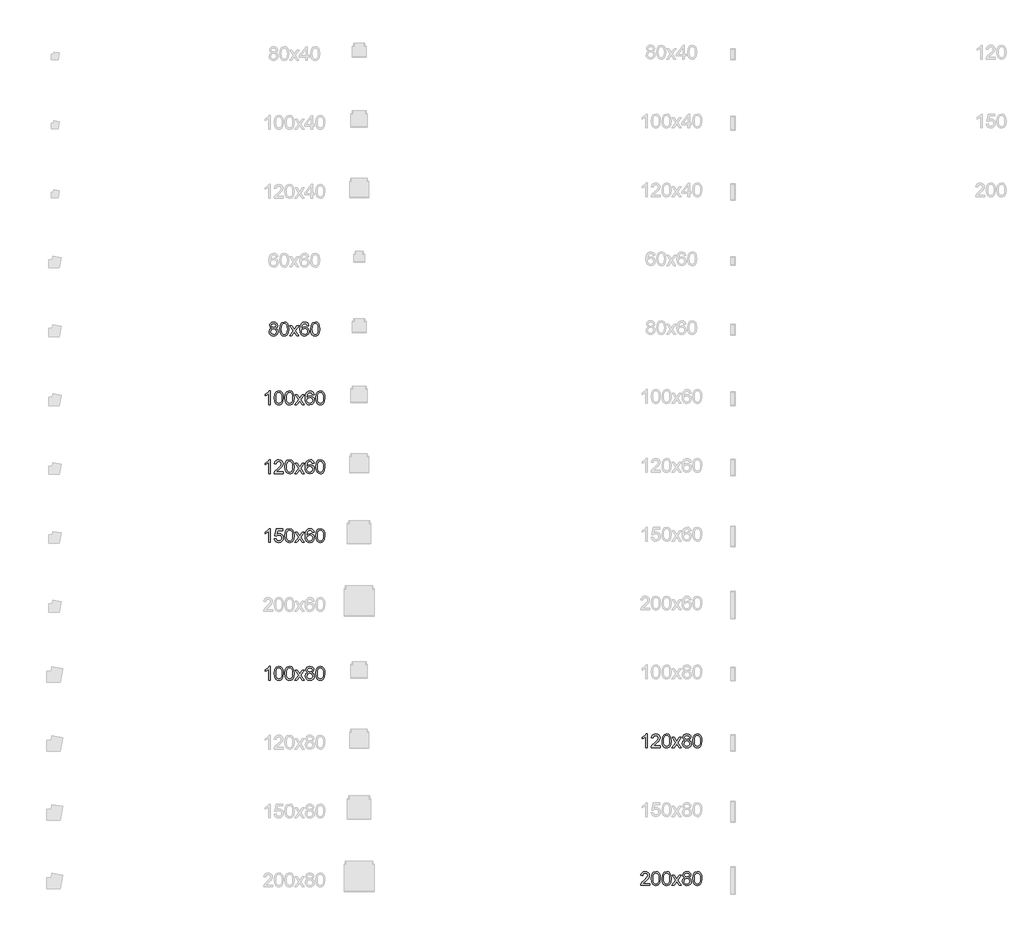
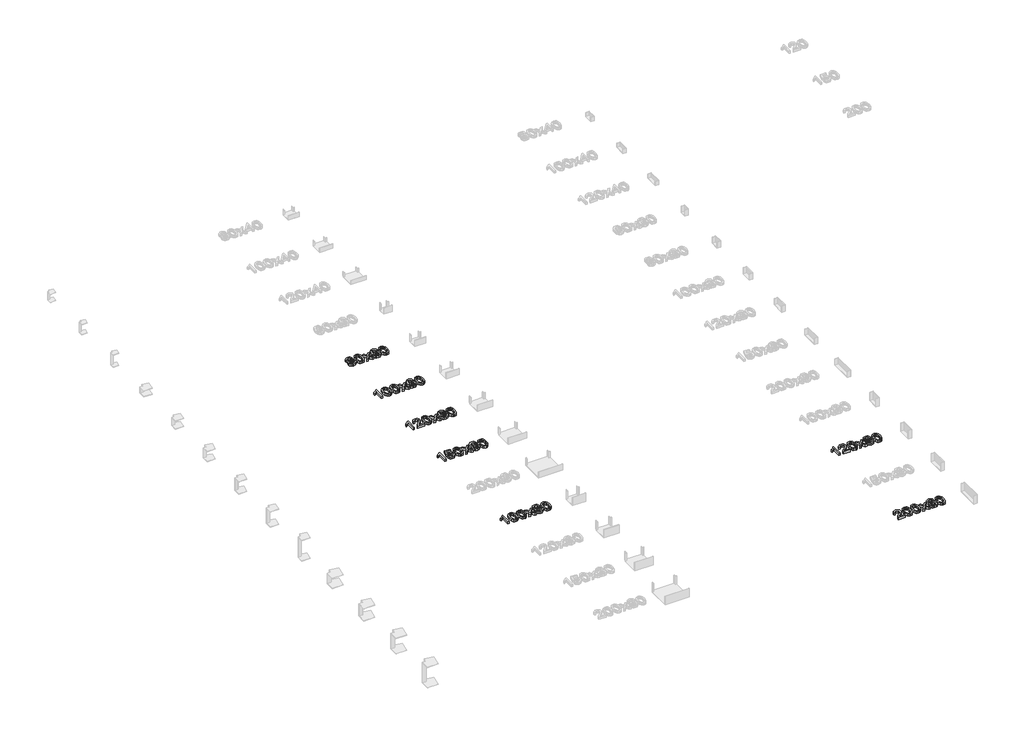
# One storey, part 17 of 28: 7 proxies.
"""IFC4 building model written with IfcOpenShell, lengths in millimetres."""

import ifcopenshell
import ifcopenshell.guid

model = None  # the IFC model being written
_history = None  # IfcOwnerHistory: only IFC2X3 demands one
_inside = {}  # id of a spatial element -> (the spatial element, [elements in it])
_under = {}  # id of a project, library or spatial element -> (it, [spatial elements below it])
_declared = {}  # id of a project -> (the project, [libraries it declares])
_typed = {}  # id of a type object -> (the type object, [elements of that type])
_made_of = {}  # id of a material, layer set ... -> (it, [elements and type objects made of it])


def new_model(schema):
    """Start an empty IFC model of exactly this schema.

    Asked for "IFC4X3", IfcOpenShell would pick the latest addendum, in which some entities
    have other attributes; the version numbers below select the first issue.
    IFC2X3 requires an IfcOwnerHistory on every rooted entity: one is made here for all.
    """
    global model, _history
    if schema == "IFC4X3":
        model = ifcopenshell.file(schema_version=(4, 3, 0, 0))
    else:
        model = ifcopenshell.file(schema=schema)
    _inside.clear()
    _under.clear()
    _declared.clear()
    _typed.clear()
    _made_of.clear()
    _history = None
    if model.schema == "IFC2X3":
        org = make("IfcOrganization", Name="unknown")
        user = make(
            "IfcPersonAndOrganization",
            ThePerson=make("IfcPerson", FamilyName="unknown"),
            TheOrganization=org,
        )
        app = make(
            "IfcApplication",
            ApplicationDeveloper=org,
            Version="unknown",
            ApplicationFullName="unknown",
            ApplicationIdentifier="unknown",
        )
        _history = make(
            "IfcOwnerHistory",
            OwningUser=user,
            OwningApplication=app,
            ChangeAction="ADDED",
            CreationDate=0,
        )
    return model


def make(cls, **values):
    """One entity of the class cls with the attributes given. An attribute that is None is left unset."""
    return model.create_entity(
        cls, **{name: value for name, value in values.items() if value is not None}
    )


def rooted(cls, **values):
    """An entity with a GlobalId (a new one), such as an element, a storey or a relation."""
    return make(cls, GlobalId=ifcopenshell.guid.new(), OwnerHistory=_history, **values)


def si_unit(unit_type, name, prefix=None):
    """IfcSIUnit, for example si_unit("LENGTHUNIT", "METRE", prefix="MILLI")."""
    return make("IfcSIUnit", UnitType=unit_type, Prefix=prefix, Name=name)


def assignment(units):
    """IfcUnitAssignment: the units of a project."""
    return None if units is None else make("IfcUnitAssignment", Units=units)


def point(xyz):
    """IfcCartesianPoint."""
    return None if xyz is None else make("IfcCartesianPoint", Coordinates=xyz)


def direction(xyz):
    """IfcDirection."""
    return None if xyz is None else make("IfcDirection", DirectionRatios=xyz)


def frame(location, z_axis=None, x_axis=None):
    """IfcAxis2Placement3D, a coordinate frame: its origin and axes. An axis left out is left unset."""
    return make(
        "IfcAxis2Placement3D",
        Location=point(location),
        Axis=direction(z_axis),
        RefDirection=direction(x_axis),
    )


def origin():
    """The frame at (0, 0, 0) with its axes left unset."""
    return frame((0.0, 0.0, 0.0))


def origin_with_axes():
    """The frame at (0, 0, 0) with the z axis (0, 0, 1) and the x axis (1, 0, 0) written out."""
    return frame((0.0, 0.0, 0.0), z_axis=(0.0, 0.0, 1.0), x_axis=(1.0, 0.0, 0.0))


def place(relative_to, where):
    """IfcLocalPlacement: puts the frame where relative to a parent placement (None: the world)."""
    return make(
        "IfcLocalPlacement", PlacementRelTo=relative_to, RelativePlacement=where
    )


def context(
    kind, dimensions, precision=None, world=None, true_north=None, identifier=None
):
    """IfcGeometricRepresentationContext, for example the 3D "Model" context."""
    return make(
        "IfcGeometricRepresentationContext",
        ContextIdentifier=identifier,
        ContextType=kind,
        CoordinateSpaceDimension=dimensions,
        Precision=precision,
        WorldCoordinateSystem=world,
        TrueNorth=true_north,
    )


def project(units=None, contexts=None):
    """IfcProject with its units and contexts."""
    return rooted(
        "IfcProject",
        Name="project",
        RepresentationContexts=contexts,
        UnitsInContext=assignment(units),
    )


def spatial(cls, under=None, at=None, **own):
    """A site, building, storey or space (cls), placed at a placement, below another one or the project."""
    s = rooted(cls, ObjectPlacement=at, **own)
    if under is not None:
        _under.setdefault(under.id(), (under, []))[1].append(s)
    return s


def polyline(points):
    """IfcPolyline through the points."""
    return make("IfcPolyline", Points=[point(p) for p in points])


def outline(outer, holes=None, kind="AREA"):
    """IfcArbitraryClosedProfileDef: a profile drawn as a closed curve; with holes, ...WithVoids."""
    if holes is None:
        return make("IfcArbitraryClosedProfileDef", ProfileType=kind, OuterCurve=outer)
    return make(
        "IfcArbitraryProfileDefWithVoids",
        ProfileType=kind,
        OuterCurve=outer,
        InnerCurves=holes,
    )


def extrude(swept, where, along, depth):
    """IfcExtrudedAreaSolid: the profile swept, set in the frame where, extruded along a direction by depth."""
    return make(
        "IfcExtrudedAreaSolid",
        SweptArea=swept,
        Position=where,
        ExtrudedDirection=direction(along),
        Depth=depth,
    )


def shape(context_of_items, identifier, shape_type, items):
    """IfcShapeRepresentation: the items that make up one representation, for example the "Body"."""
    return make(
        "IfcShapeRepresentation",
        ContextOfItems=context_of_items,
        RepresentationIdentifier=identifier,
        RepresentationType=shape_type,
        Items=items,
    )


def made_of(thing, what):
    """Note that an element or type object is made of a material, layer set ...; save() writes the relation."""
    if what is not None:
        _made_of.setdefault(what.id(), (what, []))[1].append(thing)
    return thing


def element(
    cls,
    number,
    at=None,
    inside=None,
    cuts=None,
    type_object=None,
    material=None,
    context=None,
    identifier="Body",
    shape_type=None,
    held_by="IfcProductDefinitionShape",
    body=None,
    shapes=None,
    **own,
):
    """One element of the class cls, such as IfcWall. Its Tag is "e" and its number.

    at: its placement. inside: the storey or other place that contains it. cuts: it is an
    opening in that element (IfcRelVoidsElement). A single representation is given by context,
    identifier, shape_type and body (its items); several are given by shapes. held_by: the class
    of the entity that holds the representations. save() writes the other relations.
    """
    e = rooted(cls, Tag="e%d" % number, ObjectPlacement=at, **own)
    if body is not None:
        shapes = [shape(context, identifier, shape_type, body)]
    if shapes is not None:
        e.Representation = make(held_by, Representations=shapes)
    if inside is not None:
        _inside.setdefault(inside.id(), (inside, []))[1].append(e)
    if cuts is not None:
        rooted(
            "IfcRelVoidsElement", RelatingBuildingElement=cuts, RelatedOpeningElement=e
        )
    if type_object is not None:
        _typed.setdefault(type_object.id(), (type_object, []))[1].append(e)
    return made_of(e, material)


def aggregate(whole, parts):
    """IfcRelAggregates: a whole, such as a stair, and the parts it consists of."""
    return rooted("IfcRelAggregates", RelatingObject=whole, RelatedObjects=parts)


def save(model, path):
    """Write the relations noted so far, then the file.

    IfcRelAggregates (storeys below a building ...), IfcRelContainedInSpatialStructure (elements
    in a storey), IfcRelDefinesByType, IfcRelAssociatesMaterial and IfcRelDeclares: one each for
    every whole, place, type object, material and project.
    """
    for whole, parts in _under.values():
        aggregate(whole, parts)
    for where, things in _inside.values():
        rooted(
            "IfcRelContainedInSpatialStructure",
            RelatedElements=things,
            RelatingStructure=where,
        )
    for kind, things in _typed.values():
        rooted("IfcRelDefinesByType", RelatedObjects=things, RelatingType=kind)
    for what, things in _made_of.values():
        rooted("IfcRelAssociatesMaterial", RelatedObjects=things, RelatingMaterial=what)
    for by, libraries in _declared.values():
        rooted("IfcRelDeclares", RelatingContext=by, RelatedDefinitions=libraries)
    model.write(path)


model = new_model("IFC4")

# Units and contexts
model_context = context("Model", 3, world=origin())
ifc_project = project(units=[si_unit("LENGTHUNIT", "METRE", prefix="MILLI")], contexts=[model_context])

# Site, building, storey
site = spatial("IfcSite", under=ifc_project)
building = spatial("IfcBuilding", under=site)
storey = spatial("IfcBuildingStorey", under=building, Name="Этаж 01", Elevation=0.0)

# Proxies
placement = place(None, origin())
element("IfcBuildingElementProxy", 1, Name="100 мм Arial", ObjectType="100 мм Arial", at=placement, inside=storey, context=model_context, shape_type="SweptSolid", body=[
    extrude(outline(polyline([(21237.1955345, -408.0058037), (21225.7544045, -400.2067054), (21222.0387963, -388.0665996), (21224.0621473, -378.2502817), (21230.1322002, -370.1384837), (21239.5683734, -364.6938302), (21251.6900851, -362.8789457), (21263.8853733, -364.7367497), (21273.4441738, -370.310162), (21279.6245913, -378.5507186), (21281.6847305, -388.4099561), (21278.0181733, -400.2434936), (21266.8958743, -408.0058037), (21280.2499907, -417.8527785), (21284.8239902, -434.1008999), (21282.5553845, -446.1061157), (21275.7495676, -456.0266668), (21265.2404053, -462.6853309), (21251.8617634, -464.9048856), (21238.4831215, -462.6761339), (21227.9739592, -455.9898786), (21221.1681423, -445.9742913), (21218.8995366, -433.7575434), (21223.6574771, -417.1292772), (21237.1955345, -408.0058037)]), holes=[polyline([(21234.5958351, -388.4344816), (21239.0472072, -398.2937191), (21252.0089162, -402.1196918), (21264.7131078, -398.3182445), (21269.1276917, -388.9985673), (21264.565955, -379.3477963), (21251.8617634, -375.4359844), (21239.1207836, -379.2619572), (21234.5958351, -388.4344816)]), polyline([(21231.4565754, -433.316085), (21233.5535028, -442.7706523), (21240.9724563, -449.8462493), (21251.9598653, -452.3478469), (21260.5069903, -451.0326687), (21266.9203997, -447.0871343), (21272.2669514, -433.7084925), (21266.7487215, -420.0723332), (21260.1881592, -416.0256312), (21251.5429323, -414.6767306), (21243.115369, -416.0072371), (21236.7663389, -419.9987568), (21231.4565754, -433.316085)])]), origin_with_axes(), (0.0, 0.0, 1.0), 20.0),
    extrude(outline(polyline([(21295.8113991, -413.9164411), (21299.5024818, -385.013179), (21310.4653652, -368.3481246), (21328.7736259, -362.8789457), (21343.4398547, -366.1163072), (21353.5688723, -375.4482472), (21359.4549843, -390.3106798), (21361.7358526, -413.9164411), (21358.0815581, -442.6970759), (21347.1554629, -459.3989185), (21338.9241032, -463.5283938), (21328.7736259, -464.9048856), (21315.7260778, -462.5136527), (21305.8177894, -455.3399538), (21298.3129967, -438.349937), (21295.8113991, -413.9164411)]), holes=[polyline([(21308.3684379, -413.8919156), (21309.8399658, -433.6441131), (21314.2545498, -445.0760461), (21320.8273748, -450.5298967), (21328.7736259, -452.3478469), (21336.719877, -450.5237653), (21343.2927019, -445.0515206), (21347.7072859, -433.6134563), (21349.1788139, -413.8919156), (21347.7563368, -394.5842423), (21343.4889057, -383.0634045), (21336.9283434, -377.3428394), (21328.6264731, -375.4359844), (21320.7660611, -377.1159789), (21314.4507535, -382.1559622), (21309.8890168, -394.3941699), (21308.3684379, -413.8919156)])]), origin_with_axes(), (0.0, 0.0, 1.0), 20.0),
    extrude(outline(polyline([(21368.014372, -463.3352558), (21394.8452322, -426.2527507), (21369.5840019, -389.562653), (21384.6916891, -389.562653), (21396.8808459, -407.2209888), (21402.5707541, -415.5596474), (21407.5003728, -408.7415677), (21421.3817868, -389.562653), (21436.489474, -389.562653), (21409.9529195, -426.2527507), (21435.5084554, -463.3352558), (21420.4007681, -463.3352558), (21405.0233007, -441.0416069), (21402.2028721, -436.9703795), (21383.1220593, -463.3352558), (21368.014372, -463.3352558)])), origin_with_axes(), (0.0, 0.0, 1.0), 20.0),
    extrude(outline(polyline([(21507.7114283, -389.562653), (21495.1543895, -391.1322829), (21490.3964491, -380.6599088), (21477.8148848, -375.4359844), (21466.4841194, -378.4771422), (21457.9124689, -389.8937468), (21454.3440135, -412.2732349), (21465.4172616, -402.2545819), (21479.13926, -398.9804321), (21490.7398056, -401.2183809), (21500.4764157, -407.9322273), (21507.0798976, -418.1900036), (21509.2810582, -431.0597421), (21505.1362543, -448.3869841), (21493.7319125, -460.6497172), (21477.2753246, -464.9048856), (21463.0290943, -462.084457), (21451.6830004, -453.6231711), (21444.2609812, -438.6871621), (21441.7869748, -416.4425641), (21444.533827, -391.4327198), (21452.7743837, -374.3323384), (21464.0254414, -365.7422938), (21478.5996998, -362.8789457), (21489.6177655, -364.6509106), (21498.440802, -369.9668054), (21504.6212196, -378.4096972), (21507.7114283, -389.562653)]), holes=[polyline([(21454.3440135, -430.8635384), (21457.2502813, -441.7405827), (21464.9758032, -449.6377828), (21476.2943059, -452.3478469), (21484.5808479, -450.9437639), (21491.0954249, -446.7315151), (21495.3168708, -440.1096392), (21496.7240194, -431.476675), (21495.3352649, -423.1901331), (21491.1690013, -416.8717598), (21484.5440597, -412.8710431), (21475.7792711, -411.5374709), (21460.5857447, -416.8717598), (21455.9044463, -423.0368489), (21454.3440135, -430.8635384)])]), origin_with_axes(), (0.0, 0.0, 1.0), 20.0),
    extrude(outline(polyline([(21520.2684671, -413.9164411), (21523.9595498, -385.013179), (21534.9224332, -368.3481246), (21553.2306938, -362.8789457), (21567.8969227, -366.1163072), (21578.0259403, -375.4482472), (21583.9120522, -390.3106798), (21586.1929206, -413.9164411), (21582.5386261, -442.6970759), (21571.6125309, -459.3989185), (21563.3811712, -463.5283938), (21553.2306938, -464.9048856), (21540.1831458, -462.5136527), (21530.2748573, -455.3399538), (21522.7700646, -438.349937), (21520.2684671, -413.9164411)]), holes=[polyline([(21532.8255058, -413.8919156), (21534.2970338, -433.6441131), (21538.7116178, -445.0760461), (21545.2844428, -450.5298967), (21553.2306938, -452.3478469), (21561.1769449, -450.5237653), (21567.7497699, -445.0515206), (21572.1643539, -433.6134563), (21573.6358818, -413.8919156), (21572.2134048, -394.5842423), (21567.9459737, -383.0634045), (21561.3854114, -377.3428394), (21553.0835411, -375.4359844), (21545.2231291, -377.1159789), (21538.9078215, -382.1559622), (21534.3460848, -394.3941699), (21532.8255058, -413.8919156)])]), origin_with_axes(), (0.0, 0.0, 1.0), 20.0),
])
element("IfcBuildingElementProxy", 2, Name="100 мм Arial", ObjectType="100 мм Arial", at=placement, inside=storey, context=model_context, shape_type="SweptSolid", body=[
    extrude(outline(polyline([(21227.5325008, -1463.3352558), (21214.975462, -1463.3352558), (21214.975462, -1385.0499672), (21203.0806108, -1393.5235158), (21189.8613845, -1399.8633489), (21189.8613845, -1387.9930232), (21208.267747, -1376.2453248), (21219.4390969, -1362.8789457), (21227.5325008, -1362.8789457), (21227.5325008, -1463.3352558)])), origin_with_axes(), (0.0, 0.0, 1.0), 20.0),
    extrude(outline(polyline([(21321.7102916, -1450.778217), (21321.7102916, -1463.3352558), (21255.785838, -1463.3352558), (21257.1347387, -1454.6777662), (21264.7621587, -1441.3481752), (21280.4829826, -1426.7923109), (21302.1634949, -1405.8720882), (21307.5836229, -1391.6473177), (21302.4700632, -1380.1326112), (21289.1159468, -1375.4359844), (21275.1977446, -1380.0222466), (21269.9125066, -1392.7019127), (21257.3554679, -1391.1322829), (21260.3996914, -1378.9860457), (21266.9817134, -1370.1139582), (21276.7581774, -1364.6876988), (21289.3857269, -1362.8789457), (21302.1052469, -1364.8900339), (21311.8633168, -1370.9232986), (21318.0713255, -1379.9364075), (21320.1406617, -1390.8870282), (21317.9088443, -1402.7941421), (21310.4898907, -1415.1059262), (21292.5004611, -1432.3105409), (21278.0549615, -1444.389333), (21272.3895787, -1450.778217), (21321.7102916, -1450.778217)])), origin_with_axes(), (0.0, 0.0, 1.0), 20.0),
    extrude(outline(polyline([(21334.2673303, -1413.9164411), (21337.958413, -1385.013179), (21348.9212965, -1368.3481246), (21367.2295571, -1362.8789457), (21381.895786, -1366.1163072), (21392.0248036, -1375.4482472), (21397.9109155, -1390.3106798), (21400.1917839, -1413.9164411), (21396.5374894, -1442.6970759), (21385.6113941, -1459.3989185), (21377.3800345, -1463.5283938), (21367.2295571, -1464.9048856), (21354.182009, -1462.5136527), (21344.2737206, -1455.3399538), (21336.7689279, -1438.349937), (21334.2673303, -1413.9164411)]), holes=[polyline([(21346.8243691, -1413.8919156), (21348.2958971, -1433.6441131), (21352.710481, -1445.0760461), (21359.283306, -1450.5298967), (21367.2295571, -1452.3478469), (21375.1758082, -1450.5237653), (21381.7486332, -1445.0515206), (21386.1632171, -1433.6134563), (21387.6347451, -1413.8919156), (21386.212268, -1394.5842423), (21381.9448369, -1383.0634045), (21375.3842746, -1377.3428394), (21367.0824043, -1375.4359844), (21359.2219923, -1377.1159789), (21352.9066847, -1382.1559622), (21348.344948, -1394.3941699), (21346.8243691, -1413.8919156)])]), origin_with_axes(), (0.0, 0.0, 1.0), 20.0),
    extrude(outline(polyline([(21406.4703032, -1463.3352558), (21433.3011634, -1426.2527507), (21408.0399331, -1389.562653), (21423.1476204, -1389.562653), (21435.3367771, -1407.2209888), (21441.0266853, -1415.5596474), (21445.9563041, -1408.7415677), (21459.837718, -1389.562653), (21474.9454053, -1389.562653), (21448.4088507, -1426.2527507), (21473.9643866, -1463.3352558), (21458.8566994, -1463.3352558), (21443.479232, -1441.0416069), (21440.6588033, -1436.9703795), (21421.5779905, -1463.3352558), (21406.4703032, -1463.3352558)])), origin_with_axes(), (0.0, 0.0, 1.0), 20.0),
    extrude(outline(polyline([(21546.1673595, -1389.562653), (21533.6103208, -1391.1322829), (21528.8523803, -1380.6599088), (21516.2708161, -1375.4359844), (21504.9400506, -1378.4771422), (21496.3684001, -1389.8937468), (21492.7999448, -1412.2732349), (21503.8731928, -1402.2545819), (21517.5951912, -1398.9804321), (21529.1957368, -1401.2183809), (21538.932347, -1407.9322273), (21545.5358288, -1418.1900036), (21547.7369894, -1431.0597421), (21543.5921856, -1448.3869841), (21532.1878437, -1460.6497172), (21515.7312558, -1464.9048856), (21501.4850255, -1462.084457), (21490.1389317, -1453.6231711), (21482.7169124, -1438.6871621), (21480.242906, -1416.4425641), (21482.9897582, -1391.4327198), (21491.2303149, -1374.3323384), (21502.4813726, -1365.7422938), (21517.055631, -1362.8789457), (21528.0736967, -1364.6509106), (21536.8967333, -1369.9668054), (21543.0771508, -1378.4096972), (21546.1673595, -1389.562653)]), holes=[polyline([(21492.7999448, -1430.8635384), (21495.7062125, -1441.7405827), (21503.4317344, -1449.6377828), (21514.7502372, -1452.3478469), (21523.0367791, -1450.9437639), (21529.5513561, -1446.7315151), (21533.772802, -1440.1096392), (21535.1799506, -1431.476675), (21533.7911961, -1423.1901331), (21529.6249325, -1416.8717598), (21522.9999909, -1412.8710431), (21514.2352024, -1411.5374709), (21499.041676, -1416.8717598), (21494.3603776, -1423.0368489), (21492.7999448, -1430.8635384)])]), origin_with_axes(), (0.0, 0.0, 1.0), 20.0),
    extrude(outline(polyline([(21558.7243983, -1413.9164411), (21562.415481, -1385.013179), (21573.3783645, -1368.3481246), (21591.6866251, -1362.8789457), (21606.352854, -1366.1163072), (21616.4818716, -1375.4482472), (21622.3679835, -1390.3106798), (21624.6488518, -1413.9164411), (21620.9945574, -1442.6970759), (21610.0684621, -1459.3989185), (21601.8371025, -1463.5283938), (21591.6866251, -1464.9048856), (21578.639077, -1462.5136527), (21568.7307886, -1455.3399538), (21561.2259959, -1438.349937), (21558.7243983, -1413.9164411)]), holes=[polyline([(21571.2814371, -1413.8919156), (21572.7529651, -1433.6441131), (21577.167549, -1445.0760461), (21583.740374, -1450.5298967), (21591.6866251, -1452.3478469), (21599.6328762, -1450.5237653), (21606.2057012, -1445.0515206), (21610.6202851, -1433.6134563), (21612.0918131, -1413.8919156), (21610.669336, -1394.5842423), (21606.4019049, -1383.0634045), (21599.8413426, -1377.3428394), (21591.5394723, -1375.4359844), (21583.6790603, -1377.1159789), (21577.3637527, -1382.1559622), (21572.802016, -1394.3941699), (21571.2814371, -1413.8919156)])]), origin_with_axes(), (0.0, 0.0, 1.0), 20.0),
])
element("IfcBuildingElementProxy", 3, Name="100 мм Arial", ObjectType="100 мм Arial", at=placement, inside=storey, context=model_context, shape_type="SweptSolid", body=[
    extrude(outline(polyline([(21227.5325008, -1963.3352558), (21214.975462, -1963.3352558), (21214.975462, -1885.0499672), (21203.0806108, -1893.5235158), (21189.8613845, -1899.8633489), (21189.8613845, -1887.9930232), (21208.267747, -1876.2453248), (21219.4390969, -1862.8789457), (21227.5325008, -1862.8789457), (21227.5325008, -1963.3352558)])), origin_with_axes(), (0.0, 0.0, 1.0), 20.0),
    extrude(outline(polyline([(21257.3554679, -1936.6515484), (21269.9125066, -1935.0819186), (21276.2400769, -1948.0191021), (21289.3612014, -1952.3478469), (21298.3620476, -1950.8425964), (21305.1065508, -1946.3268449), (21309.3187997, -1939.3217586), (21310.7228826, -1930.3485036), (21305.4621701, -1915.43702), (21298.8556226, -1911.3351358), (21289.5574052, -1909.967841), (21278.5332081, -1912.1506075), (21271.4821365, -1917.8159903), (21258.9250977, -1916.2463604), (21269.9125066, -1864.4485755), (21318.5710319, -1864.4485755), (21318.5710319, -1877.0056143), (21280.0660497, -1877.0056143), (21274.6949726, -1904.6703403), (21283.6651619, -1899.2256868), (21293.0645469, -1897.4108023), (21304.7969168, -1899.6610138), (21314.5365926, -1906.4116484), (21321.0940892, -1916.7000815), (21323.2799214, -1929.5636886), (21321.3117527, -1942.1207274), (21315.4072467, -1952.8628817), (21304.1010067, -1961.8943847), (21289.3121505, -1964.9048856), (21276.9789066, -1962.9704395), (21267.1533917, -1957.167101), (21260.4180855, -1948.1693206), (21257.3554679, -1936.6515484)])), origin_with_axes(), (0.0, 0.0, 1.0), 20.0),
    extrude(outline(polyline([(21334.2673303, -1913.9164411), (21337.958413, -1885.013179), (21348.9212965, -1868.3481246), (21367.2295571, -1862.8789457), (21381.895786, -1866.1163072), (21392.0248036, -1875.4482472), (21397.9109155, -1890.3106798), (21400.1917839, -1913.9164411), (21396.5374894, -1942.6970759), (21385.6113941, -1959.3989185), (21377.3800345, -1963.5283938), (21367.2295571, -1964.9048856), (21354.182009, -1962.5136527), (21344.2737206, -1955.3399538), (21336.7689279, -1938.349937), (21334.2673303, -1913.9164411)]), holes=[polyline([(21346.8243691, -1913.8919156), (21348.2958971, -1933.6441131), (21352.710481, -1945.0760461), (21359.283306, -1950.5298967), (21367.2295571, -1952.3478469), (21375.1758082, -1950.5237653), (21381.7486332, -1945.0515206), (21386.1632171, -1933.6134563), (21387.6347451, -1913.8919156), (21386.212268, -1894.5842423), (21381.9448369, -1883.0634045), (21375.3842746, -1877.3428394), (21367.0824043, -1875.4359844), (21359.2219923, -1877.1159789), (21352.9066847, -1882.1559622), (21348.344948, -1894.3941699), (21346.8243691, -1913.8919156)])]), origin_with_axes(), (0.0, 0.0, 1.0), 20.0),
    extrude(outline(polyline([(21406.4703032, -1963.3352558), (21433.3011634, -1926.2527507), (21408.0399331, -1889.562653), (21423.1476204, -1889.562653), (21435.3367771, -1907.2209888), (21441.0266853, -1915.5596474), (21445.9563041, -1908.7415677), (21459.837718, -1889.562653), (21474.9454053, -1889.562653), (21448.4088507, -1926.2527507), (21473.9643866, -1963.3352558), (21458.8566994, -1963.3352558), (21443.479232, -1941.0416069), (21440.6588033, -1936.9703795), (21421.5779905, -1963.3352558), (21406.4703032, -1963.3352558)])), origin_with_axes(), (0.0, 0.0, 1.0), 20.0),
    extrude(outline(polyline([(21546.1673595, -1889.562653), (21533.6103208, -1891.1322829), (21528.8523803, -1880.6599088), (21516.2708161, -1875.4359844), (21504.9400506, -1878.4771422), (21496.3684001, -1889.8937468), (21492.7999448, -1912.2732349), (21503.8731928, -1902.2545819), (21517.5951912, -1898.9804321), (21529.1957368, -1901.2183809), (21538.932347, -1907.9322273), (21545.5358288, -1918.1900036), (21547.7369894, -1931.0597421), (21543.5921856, -1948.3869841), (21532.1878437, -1960.6497172), (21515.7312558, -1964.9048856), (21501.4850255, -1962.084457), (21490.1389317, -1953.6231711), (21482.7169124, -1938.6871621), (21480.242906, -1916.4425641), (21482.9897582, -1891.4327198), (21491.2303149, -1874.3323384), (21502.4813726, -1865.7422938), (21517.055631, -1862.8789457), (21528.0736967, -1864.6509106), (21536.8967333, -1869.9668054), (21543.0771508, -1878.4096972), (21546.1673595, -1889.562653)]), holes=[polyline([(21492.7999448, -1930.8635384), (21495.7062125, -1941.7405827), (21503.4317344, -1949.6377828), (21514.7502372, -1952.3478469), (21523.0367791, -1950.9437639), (21529.5513561, -1946.7315151), (21533.772802, -1940.1096392), (21535.1799506, -1931.476675), (21533.7911961, -1923.1901331), (21529.6249325, -1916.8717598), (21522.9999909, -1912.8710431), (21514.2352024, -1911.5374709), (21499.041676, -1916.8717598), (21494.3603776, -1923.0368489), (21492.7999448, -1930.8635384)])]), origin_with_axes(), (0.0, 0.0, 1.0), 20.0),
    extrude(outline(polyline([(21558.7243983, -1913.9164411), (21562.415481, -1885.013179), (21573.3783645, -1868.3481246), (21591.6866251, -1862.8789457), (21606.352854, -1866.1163072), (21616.4818716, -1875.4482472), (21622.3679835, -1890.3106798), (21624.6488518, -1913.9164411), (21620.9945574, -1942.6970759), (21610.0684621, -1959.3989185), (21601.8371025, -1963.5283938), (21591.6866251, -1964.9048856), (21578.639077, -1962.5136527), (21568.7307886, -1955.3399538), (21561.2259959, -1938.349937), (21558.7243983, -1913.9164411)]), holes=[polyline([(21571.2814371, -1913.8919156), (21572.7529651, -1933.6441131), (21577.167549, -1945.0760461), (21583.740374, -1950.5298967), (21591.6866251, -1952.3478469), (21599.6328762, -1950.5237653), (21606.2057012, -1945.0515206), (21610.6202851, -1933.6134563), (21612.0918131, -1913.8919156), (21610.669336, -1894.5842423), (21606.4019049, -1883.0634045), (21599.8413426, -1877.3428394), (21591.5394723, -1875.4359844), (21583.6790603, -1877.1159789), (21577.3637527, -1882.1559622), (21572.802016, -1894.3941699), (21571.2814371, -1913.8919156)])]), origin_with_axes(), (0.0, 0.0, 1.0), 20.0),
])
element("IfcBuildingElementProxy", 4, Name="100 мм Arial", ObjectType="100 мм Arial", at=placement, inside=storey, context=model_context, shape_type="SweptSolid", body=[
    extrude(outline(polyline([(21227.5325008, -2963.3352558), (21214.975462, -2963.3352558), (21214.975462, -2885.0499672), (21203.0806108, -2893.5235158), (21189.8613845, -2899.8633489), (21189.8613845, -2887.9930232), (21208.267747, -2876.2453248), (21219.4390969, -2862.8789457), (21227.5325008, -2862.8789457), (21227.5325008, -2963.3352558)])), origin_with_axes(), (0.0, 0.0, 1.0), 20.0),
    extrude(outline(polyline([(21257.3554679, -2913.9164411), (21261.0465505, -2885.013179), (21272.009434, -2868.3481246), (21290.3176946, -2862.8789457), (21304.9839235, -2866.1163072), (21315.1129411, -2875.4482472), (21320.999053, -2890.3106798), (21323.2799214, -2913.9164411), (21319.6256269, -2942.6970759), (21308.6995317, -2959.3989185), (21300.468172, -2963.5283938), (21290.3176946, -2964.9048856), (21277.2701465, -2962.5136527), (21267.3618581, -2955.3399538), (21259.8570654, -2938.349937), (21257.3554679, -2913.9164411)]), holes=[polyline([(21269.9125066, -2913.8919156), (21271.3840346, -2933.6441131), (21275.7986186, -2945.0760461), (21282.3714435, -2950.5298967), (21290.3176946, -2952.3478469), (21298.2639457, -2950.5237653), (21304.8367707, -2945.0515206), (21309.2513546, -2933.6134563), (21310.7228826, -2913.8919156), (21309.3004056, -2894.5842423), (21305.0329744, -2883.0634045), (21298.4724122, -2877.3428394), (21290.1705418, -2875.4359844), (21282.3101299, -2877.1159789), (21275.9948223, -2882.1559622), (21271.4330855, -2894.3941699), (21269.9125066, -2913.8919156)])]), origin_with_axes(), (0.0, 0.0, 1.0), 20.0),
    extrude(outline(polyline([(21334.2673303, -2913.9164411), (21337.958413, -2885.013179), (21348.9212965, -2868.3481246), (21367.2295571, -2862.8789457), (21381.895786, -2866.1163072), (21392.0248036, -2875.4482472), (21397.9109155, -2890.3106798), (21400.1917839, -2913.9164411), (21396.5374894, -2942.6970759), (21385.6113941, -2959.3989185), (21377.3800345, -2963.5283938), (21367.2295571, -2964.9048856), (21354.182009, -2962.5136527), (21344.2737206, -2955.3399538), (21336.7689279, -2938.349937), (21334.2673303, -2913.9164411)]), holes=[polyline([(21346.8243691, -2913.8919156), (21348.2958971, -2933.6441131), (21352.710481, -2945.0760461), (21359.283306, -2950.5298967), (21367.2295571, -2952.3478469), (21375.1758082, -2950.5237653), (21381.7486332, -2945.0515206), (21386.1632171, -2933.6134563), (21387.6347451, -2913.8919156), (21386.212268, -2894.5842423), (21381.9448369, -2883.0634045), (21375.3842746, -2877.3428394), (21367.0824043, -2875.4359844), (21359.2219923, -2877.1159789), (21352.9066847, -2882.1559622), (21348.344948, -2894.3941699), (21346.8243691, -2913.8919156)])]), origin_with_axes(), (0.0, 0.0, 1.0), 20.0),
    extrude(outline(polyline([(21406.4703032, -2963.3352558), (21433.3011634, -2926.2527507), (21408.0399331, -2889.562653), (21423.1476204, -2889.562653), (21435.3367771, -2907.2209888), (21441.0266853, -2915.5596474), (21445.9563041, -2908.7415677), (21459.837718, -2889.562653), (21474.9454053, -2889.562653), (21448.4088507, -2926.2527507), (21473.9643866, -2963.3352558), (21458.8566994, -2963.3352558), (21443.479232, -2941.0416069), (21440.6588033, -2936.9703795), (21421.5779905, -2963.3352558), (21406.4703032, -2963.3352558)])), origin_with_axes(), (0.0, 0.0, 1.0), 20.0),
    extrude(outline(polyline([(21500.1085337, -2908.0058037), (21488.6674037, -2900.2067054), (21484.9517955, -2888.0665996), (21486.9751465, -2878.2502817), (21493.0451994, -2870.1384837), (21502.4813726, -2864.6938302), (21514.6030844, -2862.8789457), (21526.7983725, -2864.7367497), (21536.357173, -2870.310162), (21542.5375905, -2878.5507186), (21544.5977297, -2888.4099561), (21540.9311725, -2900.2434936), (21529.8088735, -2908.0058037), (21543.1629899, -2917.8527785), (21547.7369894, -2934.1008999), (21545.4683838, -2946.1061157), (21538.6625668, -2956.0266668), (21528.1534045, -2962.6853309), (21514.7747626, -2964.9048856), (21501.3961207, -2962.6761339), (21490.8869584, -2955.9898786), (21484.0811415, -2945.9742913), (21481.8125359, -2933.7575434), (21486.5704763, -2917.1292772), (21500.1085337, -2908.0058037)]), holes=[polyline([(21494.3695746, -2933.316085), (21496.466502, -2942.7706523), (21503.8854556, -2949.8462493), (21514.8728645, -2952.3478469), (21523.4199895, -2951.0326687), (21529.833399, -2947.0871343), (21535.1799506, -2933.7084925), (21529.6617207, -2920.0723332), (21523.1011584, -2916.0256312), (21514.4559316, -2914.6767306), (21506.0283682, -2916.0072371), (21499.6793381, -2919.9987568), (21494.3695746, -2933.316085)]), polyline([(21497.5088343, -2888.4344816), (21501.9602065, -2898.2937191), (21514.9219154, -2902.1196918), (21527.626107, -2898.3182445), (21532.0406909, -2888.9985673), (21527.4789542, -2879.3477963), (21514.7747626, -2875.4359844), (21502.0337829, -2879.2619572), (21497.5088343, -2888.4344816)])]), origin_with_axes(), (0.0, 0.0, 1.0), 20.0),
    extrude(outline(polyline([(21558.7243983, -2913.9164411), (21562.415481, -2885.013179), (21573.3783645, -2868.3481246), (21591.6866251, -2862.8789457), (21606.352854, -2866.1163072), (21616.4818716, -2875.4482472), (21622.3679835, -2890.3106798), (21624.6488518, -2913.9164411), (21620.9945574, -2942.6970759), (21610.0684621, -2959.3989185), (21601.8371025, -2963.5283938), (21591.6866251, -2964.9048856), (21578.639077, -2962.5136527), (21568.7307886, -2955.3399538), (21561.2259959, -2938.349937), (21558.7243983, -2913.9164411)]), holes=[polyline([(21571.2814371, -2913.8919156), (21572.7529651, -2933.6441131), (21577.167549, -2945.0760461), (21583.740374, -2950.5298967), (21591.6866251, -2952.3478469), (21599.6328762, -2950.5237653), (21606.2057012, -2945.0515206), (21610.6202851, -2933.6134563), (21612.0918131, -2913.8919156), (21610.669336, -2894.5842423), (21606.4019049, -2883.0634045), (21599.8413426, -2877.3428394), (21591.5394723, -2875.4359844), (21583.6790603, -2877.1159789), (21577.3637527, -2882.1559622), (21572.802016, -2894.3941699), (21571.2814371, -2913.8919156)])]), origin_with_axes(), (0.0, 0.0, 1.0), 20.0),
])
element("IfcBuildingElementProxy", 5, Name="100 мм Arial", ObjectType="100 мм Arial", at=placement, inside=storey, context=model_context, shape_type="SweptSolid", body=[
    extrude(outline(polyline([(21227.5325008, -963.3352558), (21214.975462, -963.3352558), (21214.975462, -885.0499672), (21203.0806108, -893.5235158), (21189.8613845, -899.8633489), (21189.8613845, -887.9930232), (21208.267747, -876.2453248), (21219.4390969, -862.8789457), (21227.5325008, -862.8789457), (21227.5325008, -963.3352558)])), origin_with_axes(), (0.0, 0.0, 1.0), 20.0),
    extrude(outline(polyline([(21257.3554679, -913.9164411), (21261.0465505, -885.013179), (21272.009434, -868.3481246), (21290.3176946, -862.8789457), (21304.9839235, -866.1163072), (21315.1129411, -875.4482472), (21320.999053, -890.3106798), (21323.2799214, -913.9164411), (21319.6256269, -942.6970759), (21308.6995317, -959.3989185), (21300.468172, -963.5283938), (21290.3176946, -964.9048856), (21277.2701465, -962.5136527), (21267.3618581, -955.3399538), (21259.8570654, -938.349937), (21257.3554679, -913.9164411)]), holes=[polyline([(21269.9125066, -913.8919156), (21271.3840346, -933.6441131), (21275.7986186, -945.0760461), (21282.3714435, -950.5298967), (21290.3176946, -952.3478469), (21298.2639457, -950.5237653), (21304.8367707, -945.0515206), (21309.2513546, -933.6134563), (21310.7228826, -913.8919156), (21309.3004056, -894.5842423), (21305.0329744, -883.0634045), (21298.4724122, -877.3428394), (21290.1705418, -875.4359844), (21282.3101299, -877.1159789), (21275.9948223, -882.1559622), (21271.4330855, -894.3941699), (21269.9125066, -913.8919156)])]), origin_with_axes(), (0.0, 0.0, 1.0), 20.0),
    extrude(outline(polyline([(21334.2673303, -913.9164411), (21337.958413, -885.013179), (21348.9212965, -868.3481246), (21367.2295571, -862.8789457), (21381.895786, -866.1163072), (21392.0248036, -875.4482472), (21397.9109155, -890.3106798), (21400.1917839, -913.9164411), (21396.5374894, -942.6970759), (21385.6113941, -959.3989185), (21377.3800345, -963.5283938), (21367.2295571, -964.9048856), (21354.182009, -962.5136527), (21344.2737206, -955.3399538), (21336.7689279, -938.349937), (21334.2673303, -913.9164411)]), holes=[polyline([(21346.8243691, -913.8919156), (21348.2958971, -933.6441131), (21352.710481, -945.0760461), (21359.283306, -950.5298967), (21367.2295571, -952.3478469), (21375.1758082, -950.5237653), (21381.7486332, -945.0515206), (21386.1632171, -933.6134563), (21387.6347451, -913.8919156), (21386.212268, -894.5842423), (21381.9448369, -883.0634045), (21375.3842746, -877.3428394), (21367.0824043, -875.4359844), (21359.2219923, -877.1159789), (21352.9066847, -882.1559622), (21348.344948, -894.3941699), (21346.8243691, -913.8919156)])]), origin_with_axes(), (0.0, 0.0, 1.0), 20.0),
    extrude(outline(polyline([(21406.4703032, -963.3352558), (21433.3011634, -926.2527507), (21408.0399331, -889.562653), (21423.1476204, -889.562653), (21435.3367771, -907.2209888), (21441.0266853, -915.5596474), (21445.9563041, -908.7415677), (21459.837718, -889.562653), (21474.9454053, -889.562653), (21448.4088507, -926.2527507), (21473.9643866, -963.3352558), (21458.8566994, -963.3352558), (21443.479232, -941.0416069), (21440.6588033, -936.9703795), (21421.5779905, -963.3352558), (21406.4703032, -963.3352558)])), origin_with_axes(), (0.0, 0.0, 1.0), 20.0),
    extrude(outline(polyline([(21546.1673595, -889.562653), (21533.6103208, -891.1322829), (21528.8523803, -880.6599088), (21516.2708161, -875.4359844), (21504.9400506, -878.4771422), (21496.3684001, -889.8937468), (21492.7999448, -912.2732349), (21503.8731928, -902.2545819), (21517.5951912, -898.9804321), (21529.1957368, -901.2183809), (21538.932347, -907.9322273), (21545.5358288, -918.1900036), (21547.7369894, -931.0597421), (21543.5921856, -948.3869841), (21532.1878437, -960.6497172), (21515.7312558, -964.9048856), (21501.4850255, -962.084457), (21490.1389317, -953.6231711), (21482.7169124, -938.6871621), (21480.242906, -916.4425641), (21482.9897582, -891.4327198), (21491.2303149, -874.3323384), (21502.4813726, -865.7422938), (21517.055631, -862.8789457), (21528.0736967, -864.6509106), (21536.8967333, -869.9668054), (21543.0771508, -878.4096972), (21546.1673595, -889.562653)]), holes=[polyline([(21492.7999448, -930.8635384), (21495.7062125, -941.7405827), (21503.4317344, -949.6377828), (21514.7502372, -952.3478469), (21523.0367791, -950.9437639), (21529.5513561, -946.7315151), (21533.772802, -940.1096392), (21535.1799506, -931.476675), (21533.7911961, -923.1901331), (21529.6249325, -916.8717598), (21522.9999909, -912.8710431), (21514.2352024, -911.5374709), (21499.041676, -916.8717598), (21494.3603776, -923.0368489), (21492.7999448, -930.8635384)])]), origin_with_axes(), (0.0, 0.0, 1.0), 20.0),
    extrude(outline(polyline([(21558.7243983, -913.9164411), (21562.415481, -885.013179), (21573.3783645, -868.3481246), (21591.6866251, -862.8789457), (21606.352854, -866.1163072), (21616.4818716, -875.4482472), (21622.3679835, -890.3106798), (21624.6488518, -913.9164411), (21620.9945574, -942.6970759), (21610.0684621, -959.3989185), (21601.8371025, -963.5283938), (21591.6866251, -964.9048856), (21578.639077, -962.5136527), (21568.7307886, -955.3399538), (21561.2259959, -938.349937), (21558.7243983, -913.9164411)]), holes=[polyline([(21571.2814371, -913.8919156), (21572.7529651, -933.6441131), (21577.167549, -945.0760461), (21583.740374, -950.5298967), (21591.6866251, -952.3478469), (21599.6328762, -950.5237653), (21606.2057012, -945.0515206), (21610.6202851, -933.6134563), (21612.0918131, -913.8919156), (21610.669336, -894.5842423), (21606.4019049, -883.0634045), (21599.8413426, -877.3428394), (21591.5394723, -875.4359844), (21583.6790603, -877.1159789), (21577.3637527, -882.1559622), (21572.802016, -894.3941699), (21571.2814371, -913.8919156)])]), origin_with_axes(), (0.0, 0.0, 1.0), 20.0),
])
element("IfcBuildingElementProxy", 6, Name="100 мм Arial", ObjectType="100 мм Arial", at=placement, inside=storey, context=model_context, shape_type="SweptSolid", body=[
    extrude(outline(polyline([(23965.0448333, -3453.3352558), (23952.4877945, -3453.3352558), (23952.4877945, -3375.0499672), (23940.5929433, -3383.5235158), (23927.373717, -3389.8633489), (23927.373717, -3377.9930232), (23945.7800795, -3366.2453248), (23956.9514294, -3352.8789457), (23965.0448333, -3352.8789457), (23965.0448333, -3453.3352558)])), origin_with_axes(), (0.0, 0.0, 1.0), 20.0),
    extrude(outline(polyline([(24059.222624, -3440.778217), (24059.222624, -3453.3352558), (23993.2981705, -3453.3352558), (23994.6470712, -3444.6777662), (24002.2744912, -3431.3481752), (24017.9953151, -3416.7923109), (24039.6758274, -3395.8720882), (24045.0959554, -3381.6473177), (24039.9823957, -3370.1326112), (24026.6282793, -3365.4359844), (24012.7100771, -3370.0222466), (24007.4248391, -3382.7019127), (23994.8678004, -3381.1322829), (23997.9120239, -3368.9860457), (24004.4940459, -3360.1139582), (24014.2705099, -3354.6876988), (24026.8980594, -3352.8789457), (24039.6175794, -3354.8900339), (24049.3756493, -3360.9232986), (24055.583658, -3369.9364075), (24057.6529942, -3380.8870282), (24055.4211768, -3392.7941421), (24048.0022232, -3405.1059262), (24030.0127936, -3422.3105409), (24015.5672939, -3434.389333), (24009.9019112, -3440.778217), (24059.222624, -3440.778217)])), origin_with_axes(), (0.0, 0.0, 1.0), 20.0),
    extrude(outline(polyline([(24071.7796628, -3403.9164411), (24075.4707455, -3375.013179), (24086.433629, -3358.3481246), (24104.7418896, -3352.8789457), (24119.4081185, -3356.1163072), (24129.5371361, -3365.4482472), (24135.423248, -3380.3106798), (24137.7041163, -3403.9164411), (24134.0498219, -3432.6970759), (24123.1237266, -3449.3989185), (24114.892367, -3453.5283938), (24104.7418896, -3454.9048856), (24091.6943415, -3452.5136527), (24081.7860531, -3445.3399538), (24074.2812604, -3428.349937), (24071.7796628, -3403.9164411)]), holes=[polyline([(24084.3367016, -3403.8919156), (24085.8082296, -3423.6441131), (24090.2228135, -3435.0760461), (24096.7956385, -3440.5298967), (24104.7418896, -3442.3478469), (24112.6881407, -3440.5237653), (24119.2609657, -3435.0515206), (24123.6755496, -3423.6134563), (24125.1470776, -3403.8919156), (24123.7246005, -3384.5842423), (24119.4571694, -3373.0634045), (24112.8966071, -3367.3428394), (24104.5947368, -3365.4359844), (24096.7343248, -3367.1159789), (24090.4190172, -3372.1559622), (24085.8572805, -3384.3941699), (24084.3367016, -3403.8919156)])]), origin_with_axes(), (0.0, 0.0, 1.0), 20.0),
    extrude(outline(polyline([(24143.9826357, -3453.3352558), (24170.8134959, -3416.2527507), (24145.5522656, -3379.562653), (24160.6599528, -3379.562653), (24172.8491096, -3397.2209888), (24178.5390178, -3405.5596474), (24183.4686365, -3398.7415677), (24197.3500505, -3379.562653), (24212.4577378, -3379.562653), (24185.9211832, -3416.2527507), (24211.4767191, -3453.3352558), (24196.3690318, -3453.3352558), (24180.9915644, -3431.0416069), (24178.1711358, -3426.9703795), (24159.090323, -3453.3352558), (24143.9826357, -3453.3352558)])), origin_with_axes(), (0.0, 0.0, 1.0), 20.0),
    extrude(outline(polyline([(24237.6208662, -3398.0058037), (24226.1797362, -3390.2067054), (24222.464128, -3378.0665996), (24224.487479, -3368.2502817), (24230.5575319, -3360.1384837), (24239.9937051, -3354.6938302), (24252.1154168, -3352.8789457), (24264.310705, -3354.7367497), (24273.8695055, -3360.310162), (24280.049923, -3368.5507186), (24282.1100622, -3378.4099561), (24278.443505, -3390.2434936), (24267.321206, -3398.0058037), (24280.6753224, -3407.8527785), (24285.2493219, -3424.1008999), (24282.9807162, -3436.1061157), (24276.1748993, -3446.0266668), (24265.665737, -3452.6853309), (24252.2870951, -3454.9048856), (24238.9084532, -3452.6761339), (24228.3992909, -3445.9898786), (24221.593474, -3435.9742913), (24219.3248683, -3423.7575434), (24224.0828088, -3407.1292772), (24237.6208662, -3398.0058037)]), holes=[polyline([(24235.0211668, -3378.4344816), (24239.4725389, -3388.2937191), (24252.4342479, -3392.1196918), (24265.1384395, -3388.3182445), (24269.5530234, -3378.9985673), (24264.9912867, -3369.3477963), (24252.2870951, -3365.4359844), (24239.5461153, -3369.2619572), (24235.0211668, -3378.4344816)]), polyline([(24231.8819071, -3423.316085), (24233.9788345, -3432.7706523), (24241.3977881, -3439.8462493), (24252.385197, -3442.3478469), (24260.932322, -3441.0326687), (24267.3457314, -3437.0871343), (24272.6922831, -3423.7084925), (24267.1740532, -3410.0723332), (24260.6134909, -3406.0256312), (24251.968264, -3404.6767306), (24243.5407007, -3406.0072371), (24237.1916706, -3409.9987568), (24231.8819071, -3423.316085)])]), origin_with_axes(), (0.0, 0.0, 1.0), 20.0),
    extrude(outline(polyline([(24296.2367308, -3403.9164411), (24299.9278135, -3375.013179), (24310.8906969, -3358.3481246), (24329.1989576, -3352.8789457), (24343.8651864, -3356.1163072), (24353.994204, -3365.4482472), (24359.880316, -3380.3106798), (24362.1611843, -3403.9164411), (24358.5068898, -3432.6970759), (24347.5807946, -3449.3989185), (24339.349435, -3453.5283938), (24329.1989576, -3454.9048856), (24316.1514095, -3452.5136527), (24306.2431211, -3445.3399538), (24298.7383284, -3428.349937), (24296.2367308, -3403.9164411)]), holes=[polyline([(24308.7937696, -3403.8919156), (24310.2652975, -3423.6441131), (24314.6798815, -3435.0760461), (24321.2527065, -3440.5298967), (24329.1989576, -3442.3478469), (24337.1452087, -3440.5237653), (24343.7180336, -3435.0515206), (24348.1326176, -3423.6134563), (24349.6041456, -3403.8919156), (24348.1816685, -3384.5842423), (24343.9142374, -3373.0634045), (24337.3536751, -3367.3428394), (24329.0518048, -3365.4359844), (24321.1913928, -3367.1159789), (24314.8760852, -3372.1559622), (24310.3143485, -3384.3941699), (24308.7937696, -3403.8919156)])]), origin_with_axes(), (0.0, 0.0, 1.0), 20.0),
])
element("IfcBuildingElementProxy", 7, Name="100 мм Arial", ObjectType="100 мм Arial", at=placement, inside=storey, context=model_context, shape_type="SweptSolid", body=[
    extrude(outline(polyline([(23982.3107616, -4440.778217), (23982.3107616, -4453.3352558), (23916.386308, -4453.3352558), (23917.7352087, -4444.6777662), (23925.3626287, -4431.3481752), (23941.0834527, -4416.7923109), (23962.7639649, -4395.8720882), (23968.184093, -4381.6473177), (23963.0705332, -4370.1326112), (23949.7164168, -4365.4359844), (23935.7982147, -4370.0222466), (23930.5129767, -4382.7019127), (23917.9559379, -4381.1322829), (23921.0001614, -4368.9860457), (23927.5821834, -4360.1139582), (23937.3586475, -4354.6876988), (23949.9861969, -4352.8789457), (23962.7057169, -4354.8900339), (23972.4637868, -4360.9232986), (23978.6717955, -4369.9364075), (23980.7411317, -4380.8870282), (23978.5093143, -4392.7941421), (23971.0903607, -4405.1059262), (23953.1009312, -4422.3105409), (23938.6554315, -4434.389333), (23932.9900488, -4440.778217), (23982.3107616, -4440.778217)])), origin_with_axes(), (0.0, 0.0, 1.0), 20.0),
    extrude(outline(polyline([(23994.8678004, -4403.9164411), (23998.558883, -4375.013179), (24009.5217665, -4358.3481246), (24027.8300271, -4352.8789457), (24042.496256, -4356.1163072), (24052.6252736, -4365.4482472), (24058.5113855, -4380.3106798), (24060.7922539, -4403.9164411), (24057.1379594, -4432.6970759), (24046.2118641, -4449.3989185), (24037.9805045, -4453.5283938), (24027.8300271, -4454.9048856), (24014.782479, -4452.5136527), (24004.8741906, -4445.3399538), (23997.3693979, -4428.349937), (23994.8678004, -4403.9164411)]), holes=[polyline([(24007.4248391, -4403.8919156), (24008.8963671, -4423.6441131), (24013.310951, -4435.0760461), (24019.883776, -4440.5298967), (24027.8300271, -4442.3478469), (24035.7762782, -4440.5237653), (24042.3491032, -4435.0515206), (24046.7636871, -4423.6134563), (24048.2352151, -4403.8919156), (24046.8127381, -4384.5842423), (24042.5453069, -4373.0634045), (24035.9847447, -4367.3428394), (24027.6828743, -4365.4359844), (24019.8224624, -4367.1159789), (24013.5071548, -4372.1559622), (24008.945418, -4384.3941699), (24007.4248391, -4403.8919156)])]), origin_with_axes(), (0.0, 0.0, 1.0), 20.0),
    extrude(outline(polyline([(24071.7796628, -4403.9164411), (24075.4707455, -4375.013179), (24086.433629, -4358.3481246), (24104.7418896, -4352.8789457), (24119.4081185, -4356.1163072), (24129.5371361, -4365.4482472), (24135.423248, -4380.3106798), (24137.7041163, -4403.9164411), (24134.0498219, -4432.6970759), (24123.1237266, -4449.3989185), (24114.892367, -4453.5283938), (24104.7418896, -4454.9048856), (24091.6943415, -4452.5136527), (24081.7860531, -4445.3399538), (24074.2812604, -4428.349937), (24071.7796628, -4403.9164411)]), holes=[polyline([(24084.3367016, -4403.8919156), (24085.8082296, -4423.6441131), (24090.2228135, -4435.0760461), (24096.7956385, -4440.5298967), (24104.7418896, -4442.3478469), (24112.6881407, -4440.5237653), (24119.2609657, -4435.0515206), (24123.6755496, -4423.6134563), (24125.1470776, -4403.8919156), (24123.7246005, -4384.5842423), (24119.4571694, -4373.0634045), (24112.8966071, -4367.3428394), (24104.5947368, -4365.4359844), (24096.7343248, -4367.1159789), (24090.4190172, -4372.1559622), (24085.8572805, -4384.3941699), (24084.3367016, -4403.8919156)])]), origin_with_axes(), (0.0, 0.0, 1.0), 20.0),
    extrude(outline(polyline([(24143.9826357, -4453.3352558), (24170.8134959, -4416.2527507), (24145.5522656, -4379.562653), (24160.6599528, -4379.562653), (24172.8491096, -4397.2209888), (24178.5390178, -4405.5596474), (24183.4686365, -4398.7415677), (24197.3500505, -4379.562653), (24212.4577378, -4379.562653), (24185.9211832, -4416.2527507), (24211.4767191, -4453.3352558), (24196.3690318, -4453.3352558), (24180.9915644, -4431.0416069), (24178.1711358, -4426.9703795), (24159.090323, -4453.3352558), (24143.9826357, -4453.3352558)])), origin_with_axes(), (0.0, 0.0, 1.0), 20.0),
    extrude(outline(polyline([(24237.6208662, -4398.0058037), (24226.1797362, -4390.2067054), (24222.464128, -4378.0665996), (24224.487479, -4368.2502817), (24230.5575319, -4360.1384837), (24239.9937051, -4354.6938302), (24252.1154168, -4352.8789457), (24264.310705, -4354.7367497), (24273.8695055, -4360.310162), (24280.049923, -4368.5507186), (24282.1100622, -4378.4099561), (24278.443505, -4390.2434936), (24267.321206, -4398.0058037), (24280.6753224, -4407.8527785), (24285.2493219, -4424.1008999), (24282.9807162, -4436.1061157), (24276.1748993, -4446.0266668), (24265.665737, -4452.6853309), (24252.2870951, -4454.9048856), (24238.9084532, -4452.6761339), (24228.3992909, -4445.9898786), (24221.593474, -4435.9742913), (24219.3248683, -4423.7575434), (24224.0828088, -4407.1292772), (24237.6208662, -4398.0058037)]), holes=[polyline([(24231.8819071, -4423.316085), (24233.9788345, -4432.7706523), (24241.3977881, -4439.8462493), (24252.385197, -4442.3478469), (24260.932322, -4441.0326687), (24267.3457314, -4437.0871343), (24272.6922831, -4423.7084925), (24267.1740532, -4410.0723332), (24260.6134909, -4406.0256312), (24251.968264, -4404.6767306), (24243.5407007, -4406.0072371), (24237.1916706, -4409.9987568), (24231.8819071, -4423.316085)]), polyline([(24235.0211668, -4378.4344816), (24239.4725389, -4388.2937191), (24252.4342479, -4392.1196918), (24265.1384395, -4388.3182445), (24269.5530234, -4378.9985673), (24264.9912867, -4369.3477963), (24252.2870951, -4365.4359844), (24239.5461153, -4369.2619572), (24235.0211668, -4378.4344816)])]), origin_with_axes(), (0.0, 0.0, 1.0), 20.0),
    extrude(outline(polyline([(24296.2367308, -4403.9164411), (24299.9278135, -4375.013179), (24310.8906969, -4358.3481246), (24329.1989576, -4352.8789457), (24343.8651864, -4356.1163072), (24353.994204, -4365.4482472), (24359.880316, -4380.3106798), (24362.1611843, -4403.9164411), (24358.5068898, -4432.6970759), (24347.5807946, -4449.3989185), (24339.349435, -4453.5283938), (24329.1989576, -4454.9048856), (24316.1514095, -4452.5136527), (24306.2431211, -4445.3399538), (24298.7383284, -4428.349937), (24296.2367308, -4403.9164411)]), holes=[polyline([(24308.7937696, -4403.8919156), (24310.2652975, -4423.6441131), (24314.6798815, -4435.0760461), (24321.2527065, -4440.5298967), (24329.1989576, -4442.3478469), (24337.1452087, -4440.5237653), (24343.7180336, -4435.0515206), (24348.1326176, -4423.6134563), (24349.6041456, -4403.8919156), (24348.1816685, -4384.5842423), (24343.9142374, -4373.0634045), (24337.3536751, -4367.3428394), (24329.0518048, -4365.4359844), (24321.1913928, -4367.1159789), (24314.8760852, -4372.1559622), (24310.3143485, -4384.3941699), (24308.7937696, -4403.8919156)])]), origin_with_axes(), (0.0, 0.0, 1.0), 20.0),
])

save(model, "model.ifc")
